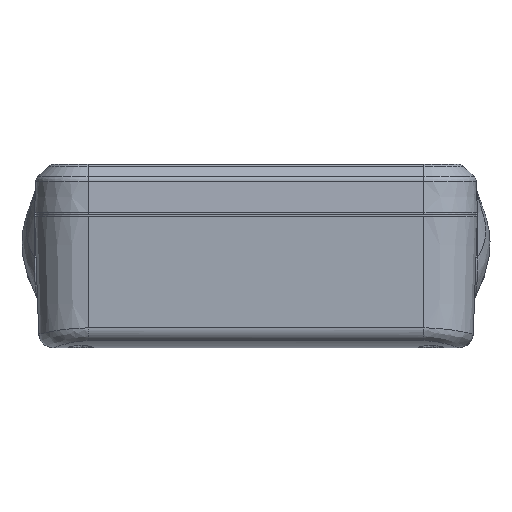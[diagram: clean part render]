
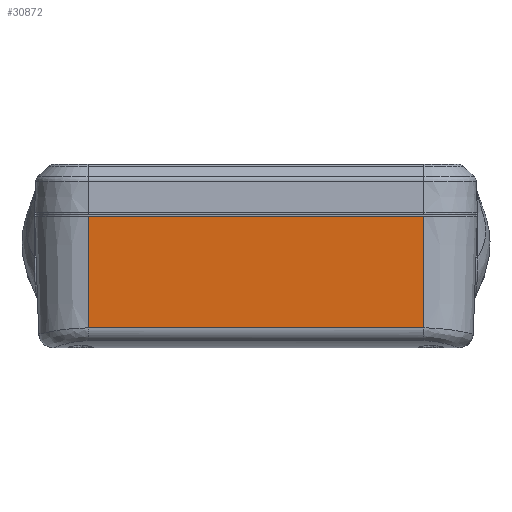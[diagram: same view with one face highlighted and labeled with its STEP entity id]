
A CAD part, top view. The second image highlights one B-rep face of the part: STEP entity #30872.
In plain terms, the highlighted planar face has unit normal (0, -0.035, 0.999).
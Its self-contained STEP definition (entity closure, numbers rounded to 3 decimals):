
#30775 = VERTEX_POINT ( 'NONE', #44605 ) ;
#30819 = VERTEX_POINT ( 'NONE', #44626 ) ;
#30821 = EDGE_CURVE ( 'NONE', #30775, #30819, #44625, .T. ) ;
#30832 = EDGE_CURVE ( 'NONE', #30866, #30877, #44614, .T. ) ;
#30835 = ORIENTED_EDGE ( 'NONE', *, *, #30836, .T. ) ;
#30836 = EDGE_CURVE ( 'NONE', #30877, #30775, #44678, .T. ) ;
#30837 = ORIENTED_EDGE ( 'NONE', *, *, #30821, .T. ) ;
#30838 = ORIENTED_EDGE ( 'NONE', *, *, #30868, .T. ) ;
#30866 = VERTEX_POINT ( 'NONE', #44702 ) ;
#30868 = EDGE_CURVE ( 'NONE', #30819, #30866, #44699, .T. ) ;
#30872 = ADVANCED_FACE ( 'NONE', ( #44737 ), #44736, .T. ) ;
#30874 = EDGE_LOOP ( 'NONE', ( #30876, #30835, #30837, #30838 ) ) ;
#30876 = ORIENTED_EDGE ( 'NONE', *, *, #30832, .T. ) ;
#30877 = VERTEX_POINT ( 'NONE', #44731 ) ;
#44605 = CARTESIAN_POINT ( 'NONE',  ( 46.99, 36.8, 99.983 ) ) ;
#44611 = DIRECTION ( 'NONE',  ( 1., 0., 0. ) ) ;
#44612 = VECTOR ( 'NONE', #44611, 1000. ) ;
#44613 = CARTESIAN_POINT ( 'NONE',  ( 0., 5.488, 98.889 ) ) ;
#44614 = LINE ( 'NONE', #44613, #44612 ) ;
#44622 = DIRECTION ( 'NONE',  ( -1., 0., 0. ) ) ;
#44623 = VECTOR ( 'NONE', #44622, 1000. ) ;
#44624 = CARTESIAN_POINT ( 'NONE',  ( 0., 36.8, 99.983 ) ) ;
#44625 = LINE ( 'NONE', #44624, #44623 ) ;
#44626 = CARTESIAN_POINT ( 'NONE',  ( -46.99, 36.8, 99.983 ) ) ;
#44675 = DIRECTION ( 'NONE',  ( 0., 0.999, 0.035 ) ) ;
#44676 = VECTOR ( 'NONE', #44675, 1000. ) ;
#44677 = CARTESIAN_POINT ( 'NONE',  ( 46.99, 20.33, 99.407 ) ) ;
#44678 = LINE ( 'NONE', #44677, #44676 ) ;
#44699 = LINE ( 'NONE', #44756, #44755 ) ;
#44702 = CARTESIAN_POINT ( 'NONE',  ( -46.99, 5.488, 98.889 ) ) ;
#44731 = CARTESIAN_POINT ( 'NONE',  ( 46.99, 5.488, 98.889 ) ) ;
#44732 = DIRECTION ( 'NONE',  ( 1., 0., 0. ) ) ;
#44733 = DIRECTION ( 'NONE',  ( 0., -0.035, 0.999 ) ) ;
#44734 = CARTESIAN_POINT ( 'NONE',  ( -48.87, 4.862, 98.867 ) ) ;
#44735 = AXIS2_PLACEMENT_3D ( 'NONE', #44734, #44733, #44732 ) ;
#44736 = PLANE ( 'NONE',  #44735 ) ;
#44737 = FACE_OUTER_BOUND ( 'NONE', #30874, .T. ) ;
#44754 = DIRECTION ( 'NONE',  ( 0., -0.999, -0.035 ) ) ;
#44755 = VECTOR ( 'NONE', #44754, 1000. ) ;
#44756 = CARTESIAN_POINT ( 'NONE',  ( -46.99, 21.144, 99.436 ) ) ;
